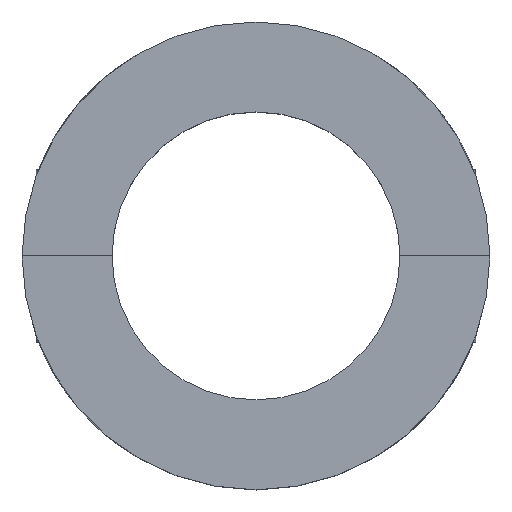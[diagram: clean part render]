
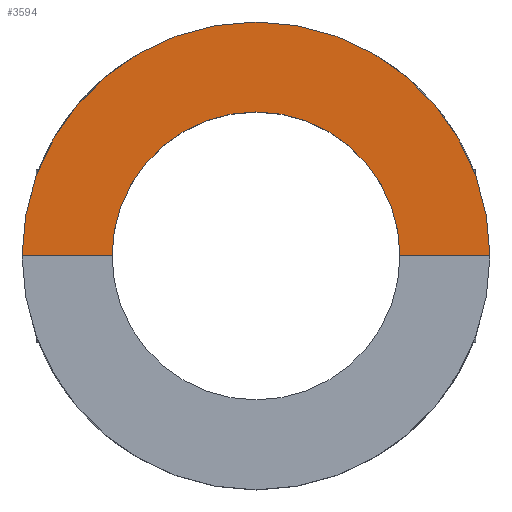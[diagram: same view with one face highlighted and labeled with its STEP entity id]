
A CAD part, top view. The second image highlights one B-rep face of the part: STEP entity #3594.
In plain terms, the highlighted planar face has unit normal (0, 0, 1).
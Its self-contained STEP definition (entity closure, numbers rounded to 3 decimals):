
#15 = DIRECTION ( 'NONE',  ( 0., 0., 1. ) ) ;
#93 = DIRECTION ( 'NONE',  ( -1., 0., 0. ) ) ;
#215 = ORIENTED_EDGE ( 'NONE', *, *, #5029, .F. ) ;
#235 = CIRCLE ( 'NONE', #3557, 20. ) ;
#329 = DIRECTION ( 'NONE',  ( 1., 0., 0. ) ) ;
#402 = PLANE ( 'NONE',  #920 ) ;
#471 = CARTESIAN_POINT ( 'NONE',  ( -32.5, 0.005, 7. ) ) ;
#541 = VERTEX_POINT ( 'NONE', #666 ) ;
#598 = EDGE_CURVE ( 'NONE', #5287, #1079, #4608, .T. ) ;
#666 = CARTESIAN_POINT ( 'NONE',  ( -20., 0.005, 7. ) ) ;
#800 = FACE_OUTER_BOUND ( 'NONE', #2421, .T. ) ;
#868 = DIRECTION ( 'NONE',  ( 1., 0., 0. ) ) ;
#920 = AXIS2_PLACEMENT_3D ( 'NONE', #5391, #3548, #1410 ) ;
#1079 = VERTEX_POINT ( 'NONE', #471 ) ;
#1410 = DIRECTION ( 'NONE',  ( 1., 0., 0. ) ) ;
#1817 = EDGE_CURVE ( 'NONE', #541, #1079, #3664, .T. ) ;
#1897 = ORIENTED_EDGE ( 'NONE', *, *, #1817, .F. ) ;
#2106 = EDGE_CURVE ( 'NONE', #5287, #3573, #4605, .T. ) ;
#2341 = AXIS2_PLACEMENT_3D ( 'NONE', #4004, #15, #329 ) ;
#2421 = EDGE_LOOP ( 'NONE', ( #4801, #5070, #1897, #215 ) ) ;
#3119 = DIRECTION ( 'NONE',  ( 0., 0., 1. ) ) ;
#3493 = VECTOR ( 'NONE', #4134, 1000. ) ;
#3548 = DIRECTION ( 'NONE',  ( 0., 0., 1. ) ) ;
#3557 = AXIS2_PLACEMENT_3D ( 'NONE', #5419, #3119, #868 ) ;
#3573 = VERTEX_POINT ( 'NONE', #4264 ) ;
#3594 = ADVANCED_FACE ( 'NONE', ( #800 ), #402, .T. ) ;
#3664 = LINE ( 'NONE', #5474, #3493 ) ;
#3898 = CARTESIAN_POINT ( 'NONE',  ( 32.5, 0.005, 7. ) ) ;
#4004 = CARTESIAN_POINT ( 'NONE',  ( 0., 0., 7. ) ) ;
#4134 = DIRECTION ( 'NONE',  ( -1., 0., 0. ) ) ;
#4159 = CARTESIAN_POINT ( 'NONE',  ( -32.5, 0.005, 7. ) ) ;
#4264 = CARTESIAN_POINT ( 'NONE',  ( 20., 0.005, 7. ) ) ;
#4605 = LINE ( 'NONE', #4159, #4957 ) ;
#4608 = CIRCLE ( 'NONE', #2341, 32.5 ) ;
#4801 = ORIENTED_EDGE ( 'NONE', *, *, #2106, .F. ) ;
#4957 = VECTOR ( 'NONE', #93, 1000. ) ;
#5029 = EDGE_CURVE ( 'NONE', #3573, #541, #235, .T. ) ;
#5070 = ORIENTED_EDGE ( 'NONE', *, *, #598, .T. ) ;
#5287 = VERTEX_POINT ( 'NONE', #3898 ) ;
#5391 = CARTESIAN_POINT ( 'NONE',  ( 0., 0., 7. ) ) ;
#5419 = CARTESIAN_POINT ( 'NONE',  ( 0., 0., 7. ) ) ;
#5474 = CARTESIAN_POINT ( 'NONE',  ( -32.5, 0.005, 7. ) ) ;
